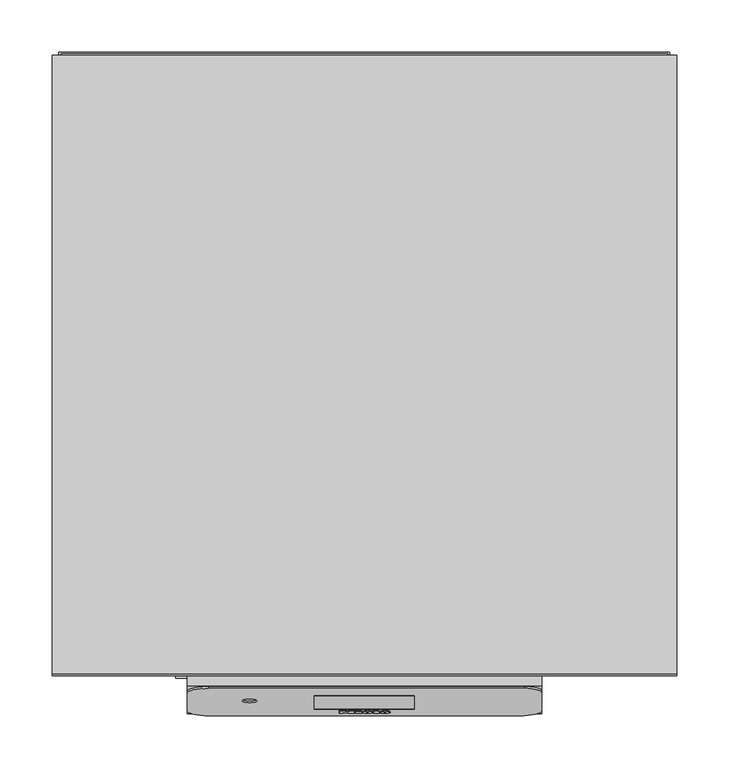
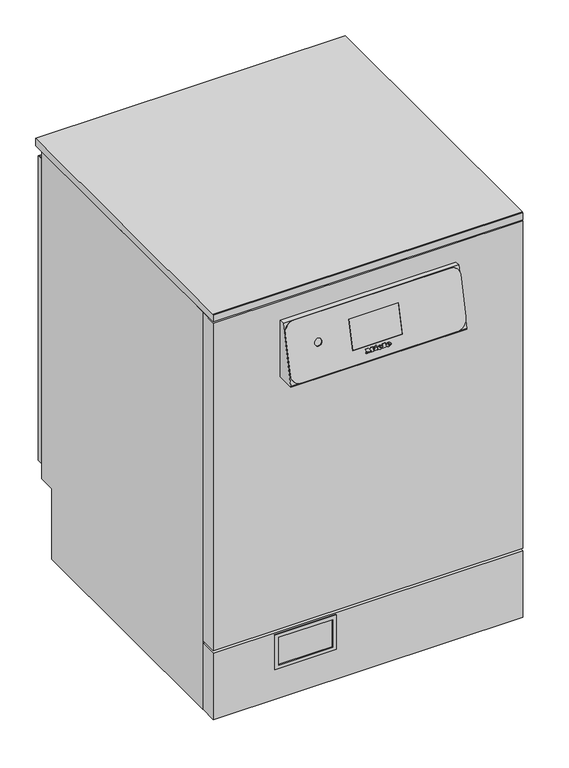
"""IFC4 building model written with IfcOpenShell, lengths in millimetres: proxy geometry, 12065160_DAC_PFD402_SST : 61040210_DAC_12065160_PFD402_SST."""

from ifc_helpers import new_model, si_unit, point, frame, frame_2d, origin, origin_with_axes, place, context, project, spatial, polyline, circle_curve, ellipse_curve, trimmed, segment, composite_curve, outline, extrude, faceted_brep, source, transform, mapped, element, save
from ifc_brep_helpers import plane_surface, cylinder_surface, revolved_surface, extruded_surface, advanced_brep


def specialty_equipment_52fd176c(model_context):
    return source(origin(), model_context, "Body", "SolidModel", [
        advanced_brep(
        [(19.2098411, -35.3170778, 679.7116041), (19.2098411, -35.1353173, 680.4988951), (24.5618411, -35.1353173, 680.4988951), (15.2498411, -35.1353173, 680.4988951), (17.4498411, -35.743585, 677.8641985), (24.4258411, -35.3170778, 679.7116041), (22.0098411, -35.3170778, 679.7116041), (20.1058411, -35.5186339, 678.8385685), (19.2098411, -34.9049675, 681.4966501), (19.2098411, -34.7088101, 682.3463008), (20.5778411, -34.7088101, 682.3463008), (20.5778411, -34.9049675, 681.4966501), (19.2098411, -34.3427077, 679.4866531), (20.1058411, -34.5442639, 678.6136175), (22.0098411, -34.3427077, 679.4866531), (24.4258411, -34.3427077, 679.4866531), (17.4498411, -34.7692149, 677.6392474), (15.2498411, -34.1609473, 680.2739441), (24.5618411, -34.1609473, 680.2739441), (19.2098411, -34.1609473, 680.2739441), (19.2098411, -33.9305974, 681.271699), (20.5778411, -33.9305974, 681.271699), (20.5778411, -33.7344401, 682.1213497), (19.2098411, -33.7344401, 682.1213497)],
        [
            (0, 1),
            (1, 2),
            (2, 3, ellipse_curve(frame((19.9058411, -35.1353173, 680.4988951), z_axis=(0.0, -0.9743700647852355, 0.22495105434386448), x_axis=(-1.0, 0.0, 0.0)), 4.656, 3.848)),
            (3, 4, circle_curve(frame((18.3458847, -35.0741307, 680.7639238), z_axis=(0.0, -0.9743700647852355, 0.22495105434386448), x_axis=(0.0, -0.22495105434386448, -0.9743700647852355)), 3.1079688)),
            (4, 5, circle_curve(frame((19.8126347, -34.599034, 682.8217934), z_axis=(0.0, -0.9743700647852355, 0.22495105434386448), x_axis=(0.0, -0.22495105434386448, -0.9743700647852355)), 5.6098607)),
            (5, 6),
            (6, 7, circle_curve(frame((20.4968999, -35.1497142, 680.4365354), z_axis=(0.0, 0.9743700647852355, -0.22495105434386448), x_axis=(0.0, -0.22495105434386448, -0.9743700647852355)), 1.6859795)),
            (7, 0, circle_curve(frame((20.1058411, -35.3170778, 679.7116041), z_axis=(0.0, 0.9743700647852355, -0.22495105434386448), x_axis=(0.0, -0.22495105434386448, -0.9743700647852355)), 0.896)),
            (8, 9),
            (9, 10, circle_curve(frame((19.8938411, -34.7088101, 682.3463008), z_axis=(0.0, 0.9743700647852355, -0.22495105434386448), x_axis=(0.0, -0.22495105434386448, -0.9743700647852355)), 0.684)),
            (10, 11),
            (11, 8),
            (12, 13, circle_curve(frame((20.1058411, -34.3427077, 679.4866531), z_axis=(0.0, -0.9743700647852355, 0.22495105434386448), x_axis=(0.0, -0.22495105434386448, -0.9743700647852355)), 0.896)),
            (13, 14, circle_curve(frame((20.4968999, -34.1753441, 680.2115844), z_axis=(0.0, -0.9743700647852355, 0.22495105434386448), x_axis=(0.0, -0.22495105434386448, -0.9743700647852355)), 1.6859795)),
            (14, 15),
            (15, 16, circle_curve(frame((19.8126347, -33.624664, 682.5968423), z_axis=(0.0, 0.9743700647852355, -0.22495105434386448), x_axis=(0.0, -0.22495105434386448, -0.9743700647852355)), 5.6098607)),
            (16, 17, circle_curve(frame((18.3458847, -34.0997606, 680.5389727), z_axis=(0.0, 0.9743700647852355, -0.22495105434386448), x_axis=(0.0, -0.22495105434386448, -0.9743700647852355)), 3.1079688)),
            (17, 18, ellipse_curve(frame((19.9058411, -34.1609473, 680.2739441), z_axis=(0.0, 0.9743700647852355, -0.22495105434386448), x_axis=(-1.0, 0.0, 0.0)), 4.656, 3.848)),
            (18, 19),
            (19, 12),
            (20, 21),
            (21, 22),
            (22, 23, circle_curve(frame((19.8938411, -33.7344401, 682.1213497), z_axis=(0.0, -0.9743700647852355, 0.22495105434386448), x_axis=(0.0, -0.22495105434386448, -0.9743700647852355)), 0.684)),
            (23, 20),
            (0, 12),
            (19, 1),
            (18, 2),
            (5, 15),
            (14, 6),
            (17, 3),
            (13, 7),
            (16, 4),
            (8, 20),
            (23, 9),
            (22, 10),
            (21, 11),
        ],
        [
            plane_surface(frame((19.2098411, -35.1353173, 680.4988951), z_axis=(0.0, -0.9743700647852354, 0.22495105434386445), x_axis=(0.0, 0.22495105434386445, 0.9743700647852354))),
            plane_surface(frame((19.2098411, -34.1609473, 680.2739441), z_axis=(0.0, 0.9743700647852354, -0.22495105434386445), x_axis=(0.0, -0.22495105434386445, -0.9743700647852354))),
            plane_surface(frame((19.2098411, -35.3170778, 679.7116041), z_axis=(1.0, 0.0, 0.0), x_axis=(0.0, 0.9743700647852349, -0.22495105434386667))),
            plane_surface(frame((19.2098411, -35.1353173, 680.4988951), z_axis=(0.0, -0.22495105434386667, -0.9743700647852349), x_axis=(0.0, 0.9743700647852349, -0.22495105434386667))),
            plane_surface(frame((24.4258411, -35.3170778, 679.7116041), z_axis=(0.0, 0.22495105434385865, 0.9743700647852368), x_axis=(0.0, 0.9743700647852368, -0.22495105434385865))),
            extruded_surface(trimmed(ellipse_curve(frame((19.9058411, -33.1865772, 680.048993), z_axis=(0.0, -0.9743700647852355, 0.22495105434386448), x_axis=(-1.0, 0.0, 0.0)), 4.656, 3.848), [point((24.5618411, -33.1865772, 680.048993))], [point((15.2498411, -33.1865772, 680.048993))], True, "CARTESIAN"), (0.0, -0.9743700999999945, 0.2249510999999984), 1.0000000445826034),
            revolved_surface(polyline([(20.4968999, -34.55460696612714, 678.5688164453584), (20.4968999, -35.52897707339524, 678.7937675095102)]), (20.4968999, -34.1753441, 680.2115844), (0.0, 0.9743700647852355, -0.22495105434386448)),
            revolved_surface(polyline([(20.1058411, -34.544263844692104, 678.6136175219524), (20.1058411, -35.51863393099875, 678.8385685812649)]), (20.1058411, -34.3427077, 679.4866531), (0.0, 0.9743700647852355, -0.22495105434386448)),
            cylinder_surface(frame((18.3458847, -34.0997606, 680.5389727), z_axis=(0.0, -0.9743700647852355, 0.22495105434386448), x_axis=(0.0, -0.22495105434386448, -0.9743700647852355)), 3.1079688),
            cylinder_surface(frame((19.8126347, -33.624664, 682.5968423), z_axis=(0.0, -0.9743700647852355, 0.22495105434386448), x_axis=(0.0, -0.22495105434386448, -0.9743700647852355)), 5.6098607),
            plane_surface(frame((19.2098411, -34.9049675, 681.4966501), z_axis=(1.0, 0.0, 0.0), x_axis=(0.0, 0.9743700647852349, -0.22495105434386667))),
            revolved_surface(polyline([(19.8938411, -33.8883066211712, 681.4548805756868), (19.8938411, -34.8626766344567, 681.6798316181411)]), (19.8938411, -33.7344401, 682.1213497), (0.0, 0.9743700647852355, -0.22495105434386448)),
            plane_surface(frame((20.5778411, -34.7088101, 682.3463008), z_axis=(-1.0, 0.0, 0.0), x_axis=(0.0, 0.9743700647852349, -0.22495105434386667))),
            plane_surface(frame((20.5778411, -34.9049675, 681.4966501), z_axis=(0.0, 0.22495105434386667, 0.9743700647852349), x_axis=(0.0, 0.9743700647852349, -0.22495105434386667))),
        ],
        [
            (0, [[1, 2, 3, 4, 5, 6, 7, 8], [9, 10, 11, 12]]),
            (1, [[13, 14, 15, 16, 17, 18, 19, 20], [21, 22, 23, 24]]),
            (2, [[-1, 25, -20, 26]]),
            (3, [[-2, -26, -19, 27]]),
            (4, [[-6, 28, -15, 29]]),
            (5, [[-3, -27, -18, 30]]),
            (6, [[-7, -29, -14, 31]]),
            (7, [[-8, -31, -13, -25]]),
            (8, [[-4, -30, -17, 32]]),
            (9, [[-5, -32, -16, -28]]),
            (10, [[-9, 33, -24, 34]]),
            (11, [[-10, -34, -23, 35]]),
            (12, [[-11, -35, -22, 36]]),
            (13, [[-12, -36, -21, -33]]),
        ],
    ),
        advanced_brep(
        [(2.5138411, -35.3170778, 679.7116041), (2.5138411, -35.1353173, 680.4988951), (7.8658411, -35.1353173, 680.4988951), (-1.4461589, -35.1353173, 680.4988951), (0.7538411, -35.743585, 677.8641985), (7.7298411, -35.3170778, 679.7116041), (5.3138411, -35.3170778, 679.7116041), (3.4098411, -35.5186339, 678.8385685), (2.5138411, -34.9049675, 681.4966501), (2.5138411, -34.7088101, 682.3463008), (3.8818411, -34.7088101, 682.3463008), (3.8818411, -34.9049675, 681.4966501), (2.5138411, -34.3427077, 679.4866531), (3.4098411, -34.5442639, 678.6136175), (5.3138411, -34.3427077, 679.4866531), (7.7298411, -34.3427077, 679.4866531), (0.7538411, -34.7692149, 677.6392474), (-1.4461589, -34.1609473, 680.2739441), (7.8658411, -34.1609473, 680.2739441), (2.5138411, -34.1609473, 680.2739441), (2.5138411, -33.9305974, 681.271699), (3.8818411, -33.9305974, 681.271699), (3.8818411, -33.7344401, 682.1213497), (2.5138411, -33.7344401, 682.1213497)],
        [
            (0, 1),
            (1, 2),
            (2, 3, ellipse_curve(frame((3.2098411, -35.1353173, 680.4988951), z_axis=(0.0, -0.9743700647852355, 0.22495105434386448), x_axis=(-1.0, 0.0, 0.0)), 4.656, 3.848)),
            (3, 4, circle_curve(frame((1.6498847, -35.0741307, 680.7639238), z_axis=(0.0, -0.9743700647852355, 0.22495105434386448), x_axis=(0.0, -0.22495105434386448, -0.9743700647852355)), 3.1079688)),
            (4, 5, circle_curve(frame((3.1166347, -34.599034, 682.8217934), z_axis=(0.0, -0.9743700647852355, 0.22495105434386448), x_axis=(0.0, -0.22495105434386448, -0.9743700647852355)), 5.6098607)),
            (5, 6),
            (6, 7, circle_curve(frame((3.8008999, -35.1497142, 680.4365354), z_axis=(0.0, 0.9743700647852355, -0.22495105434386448), x_axis=(0.0, -0.22495105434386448, -0.9743700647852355)), 1.6859795)),
            (7, 0, circle_curve(frame((3.4098411, -35.3170778, 679.7116041), z_axis=(0.0, 0.9743700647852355, -0.22495105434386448), x_axis=(0.0, -0.22495105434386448, -0.9743700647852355)), 0.896)),
            (8, 9),
            (9, 10, circle_curve(frame((3.1978411, -34.7088101, 682.3463008), z_axis=(0.0, 0.9743700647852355, -0.22495105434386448), x_axis=(0.0, -0.22495105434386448, -0.9743700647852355)), 0.684)),
            (10, 11),
            (11, 8),
            (12, 13, circle_curve(frame((3.4098411, -34.3427077, 679.4866531), z_axis=(0.0, -0.9743700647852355, 0.22495105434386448), x_axis=(0.0, -0.22495105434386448, -0.9743700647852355)), 0.896)),
            (13, 14, circle_curve(frame((3.8008999, -34.1753441, 680.2115844), z_axis=(0.0, -0.9743700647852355, 0.22495105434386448), x_axis=(0.0, -0.22495105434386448, -0.9743700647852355)), 1.6859795)),
            (14, 15),
            (15, 16, circle_curve(frame((3.1166347, -33.624664, 682.5968423), z_axis=(0.0, 0.9743700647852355, -0.22495105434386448), x_axis=(0.0, -0.22495105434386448, -0.9743700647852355)), 5.6098607)),
            (16, 17, circle_curve(frame((1.6498847, -34.0997606, 680.5389727), z_axis=(0.0, 0.9743700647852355, -0.22495105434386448), x_axis=(0.0, -0.22495105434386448, -0.9743700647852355)), 3.1079688)),
            (17, 18, ellipse_curve(frame((3.2098411, -34.1609473, 680.2739441), z_axis=(0.0, 0.9743700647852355, -0.22495105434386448), x_axis=(-1.0, 0.0, 0.0)), 4.656, 3.848)),
            (18, 19),
            (19, 12),
            (20, 21),
            (21, 22),
            (22, 23, circle_curve(frame((3.1978411, -33.7344401, 682.1213497), z_axis=(0.0, -0.9743700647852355, 0.22495105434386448), x_axis=(0.0, -0.22495105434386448, -0.9743700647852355)), 0.684)),
            (23, 20),
            (0, 12),
            (19, 1),
            (18, 2),
            (5, 15),
            (14, 6),
            (17, 3),
            (13, 7),
            (16, 4),
            (8, 20),
            (23, 9),
            (22, 10),
            (21, 11),
        ],
        [
            plane_surface(frame((2.5138411, -35.1353173, 680.4988951), z_axis=(0.0, -0.9743700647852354, 0.22495105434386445), x_axis=(0.0, 0.22495105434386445, 0.9743700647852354))),
            plane_surface(frame((2.5138411, -34.1609473, 680.2739441), z_axis=(0.0, 0.9743700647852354, -0.22495105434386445), x_axis=(0.0, -0.22495105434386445, -0.9743700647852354))),
            plane_surface(frame((2.5138411, -35.3170778, 679.7116041), z_axis=(1.0000000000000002, 0.0, 0.0), x_axis=(0.0, 0.9743700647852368, -0.22495105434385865))),
            plane_surface(frame((2.5138411, -35.1353173, 680.4988951), z_axis=(0.0, -0.22495105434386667, -0.9743700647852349), x_axis=(0.0, 0.9743700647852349, -0.22495105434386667))),
            plane_surface(frame((7.7298411, -35.3170778, 679.7116041), z_axis=(0.0, 0.22495105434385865, 0.9743700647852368), x_axis=(0.0, 0.9743700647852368, -0.22495105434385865))),
            extruded_surface(trimmed(ellipse_curve(frame((3.2098411, -33.1865772, 680.048993), z_axis=(0.0, -0.9743700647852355, 0.22495105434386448), x_axis=(-1.0, 0.0, 0.0)), 4.656, 3.848), [point((7.8658411, -33.1865772, 680.048993))], [point((-1.4461589, -33.1865772, 680.048993))], True, "CARTESIAN"), (0.0, -0.9743700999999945, 0.2249510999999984), 1.0000000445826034),
            revolved_surface(polyline([(3.8008999, -34.55460696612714, 678.5688164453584), (3.8008999, -35.52897707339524, 678.7937675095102)]), (3.8008999, -34.1753441, 680.2115844), (0.0, 0.9743700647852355, -0.22495105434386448)),
            revolved_surface(polyline([(3.4098411, -34.544263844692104, 678.6136175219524), (3.4098411, -35.51863393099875, 678.8385685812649)]), (3.4098411, -34.3427077, 679.4866531), (0.0, 0.9743700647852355, -0.22495105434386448)),
            cylinder_surface(frame((1.6498847, -34.0997606, 680.5389727), z_axis=(0.0, -0.9743700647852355, 0.22495105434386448), x_axis=(0.0, -0.22495105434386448, -0.9743700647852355)), 3.1079688),
            cylinder_surface(frame((3.1166347, -33.624664, 682.5968423), z_axis=(0.0, -0.9743700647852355, 0.22495105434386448), x_axis=(0.0, -0.22495105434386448, -0.9743700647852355)), 5.6098607),
            plane_surface(frame((2.5138411, -34.9049675, 681.4966501), z_axis=(1.0, 0.0, 0.0), x_axis=(0.0, 0.9743700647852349, -0.22495105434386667))),
            revolved_surface(polyline([(3.1978411, -33.8883066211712, 681.4548805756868), (3.1978411, -34.8626766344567, 681.6798316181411)]), (3.1978411, -33.7344401, 682.1213497), (0.0, 0.9743700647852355, -0.22495105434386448)),
            plane_surface(frame((3.8818411, -34.7088101, 682.3463008), z_axis=(-1.0, 0.0, 0.0), x_axis=(0.0, 0.9743700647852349, -0.22495105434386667))),
            plane_surface(frame((3.8818411, -34.9049675, 681.4966501), z_axis=(0.0, 0.22495105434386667, 0.9743700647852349), x_axis=(0.0, 0.9743700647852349, -0.22495105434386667))),
        ],
        [
            (0, [[1, 2, 3, 4, 5, 6, 7, 8], [9, 10, 11, 12]]),
            (1, [[13, 14, 15, 16, 17, 18, 19, 20], [21, 22, 23, 24]]),
            (2, [[-1, 25, -20, 26]]),
            (3, [[-2, -26, -19, 27]]),
            (4, [[-6, 28, -15, 29]]),
            (5, [[-3, -27, -18, 30]]),
            (6, [[-7, -29, -14, 31]]),
            (7, [[-8, -31, -13, -25]]),
            (8, [[-4, -30, -17, 32]]),
            (9, [[-5, -32, -16, -28]]),
            (10, [[-9, 33, -24, 34]]),
            (11, [[-10, -34, -23, 35]]),
            (12, [[-11, -35, -22, 36]]),
            (13, [[-12, -36, -21, -33]]),
        ],
    ),
        extrude(outline(polyline([(0.0, 0.0), (-0.0109087, -2.9993294), (-1.4390415, -2.9920868), (-1.4315307, 0.0), (0.0, 0.0)])), frame((-6.2301589, -33.0757834, 684.9743053), z_axis=(0.0, -0.9743700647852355, 0.2249510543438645), x_axis=(-0.42472021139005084, 0.20365373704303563, 0.8821212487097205)), (0.0, 0.0, 1.0), 1.0),
        extrude(outline(polyline([(-0.4933908, 2.4141097), (-2.7800844, -2.4601583), (-7.0459742, -0.4588767), (-7.4401146, -1.2990179), (-8.6568709, -0.728194), (-5.9760369, 4.9862153), (-4.7592806, 4.4153913), (-5.1636142, 3.5535222), (-2.1941493, 2.16044), (-1.7898157, 3.022309), (-0.4933908, 2.4141097)])), frame((-6.2301589, -33.0757834, 684.9743053), z_axis=(0.0, -0.9743700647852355, 0.2249510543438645), x_axis=(-0.42472021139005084, 0.20365373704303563, 0.8821212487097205)), (0.0, 0.0, 1.0), 1.0),
        extrude(outline(polyline([(0.0, 0.0), (0.0, -1.3039999), (-5.504, -1.3039999), (-5.504, 5.352), (-6.488, 5.352), (-6.488, 6.696), (0.0, 6.696), (0.0, 5.352), (-0.96, 5.352), (-0.96, 0.0), (0.0, 0.0)])), frame((8.3138411, -33.2629427, 684.1636294), z_axis=(0.0, -0.9743700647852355, 0.22495105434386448), x_axis=(-1.0, 0.0, 0.0)), (0.0, 0.0, 1.0), 1.0),
        extrude(outline(polyline([(0.0, 0.0), (0.0, -1.3039999), (-5.576, -1.3039999), (-7.92, 1.6960001), (-10.256, -1.3039999), (-15.128, -1.3039999), (-15.128, 0.0), (-14.112, 0.0), (-14.112, 5.352), (-15.128, 5.352), (-15.128, 6.696), (-8.744, 6.696), (-8.744, 5.352), (-9.728, 5.352), (-9.728, 1.8807777), (-6.136, 6.696), (-2.56, 1.9488752), (-2.56, 5.352), (-3.52, 5.352), (-3.52, 6.696), (0.0, 6.696), (0.0, 5.352), (-0.968, 5.352), (-0.968, 0.0), (0.0, 0.0)])), frame((-24.1501589, -33.2629427, 684.1636294), z_axis=(0.0, -0.9743700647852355, 0.22495105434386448), x_axis=(-1.0, 0.0, 0.0)), (0.0, 0.0, 1.0), 1.0),
        extrude(outline(polyline([(1.7745866, 832.3), (594.2, 832.3), (594.2, 817.0), (0.2, 817.0), (0.2, 830.7254134), (1.7745866, 832.3)])), frame((-299.0, 0.0, 0.0), z_axis=(1.0, 0.0, 0.0), x_axis=(0.0, 1.0, 0.0)), (0.0, 0.0, 1.0), 598.0),
        extrude(outline(polyline([(-0.1038681, 775.5857792), (-0.1038681, 660.0), (-36.1981904, 660.0), (-36.1981904, 662.5588517), (-10.1038681, 775.5857792), (-0.1038681, 775.5857792)])), frame((-169.8831565, 0.0, 0.0), z_axis=(1.0, 0.0, 0.0), x_axis=(0.0, 1.0, 0.0)), (0.0, 0.0, 1.0), 339.766313),
        extrude(outline(polyline([(137.0, -180.8556958), (66.1019991, -180.8556958), (66.1019991, -62.1493684), (137.0, -62.1493684), (137.0, -180.8556958)]), holes=[polyline([(129.5988213, -69.1491757), (73.0575068, -69.1491757), (73.0575068, -173.1990884), (129.5988213, -173.1990884), (129.5988213, -69.1491757)])]), frame((0.0, -2.0, 0.0), z_axis=(0.0, 1.0, 0.0), x_axis=(0.0, 0.0, 1.0)), (0.0, 0.0, 1.0), 2.0),
        extrude(outline(polyline([(299.0, 34.0), (299.0, 0.0), (-299.0, 0.0), (-299.0, 34.0), (299.0, 34.0)])), frame((0.0, 0.0, 4.5), z_axis=(0.0, 0.0, 1.0), x_axis=(1.0, 0.0, 0.0)), (0.0, 0.0, 1.0), 135.5),
        extrude(outline(polyline([(299.0, 34.0), (299.0, 0.0), (-299.0, 0.0), (-299.0, 34.0), (299.0, 34.0)])), frame((0.0, 0.0, 145.0), z_axis=(0.0, 0.0, 1.0), x_axis=(1.0, 0.0, 0.0)), (0.0, 0.0, 1.0), 670.0),
        advanced_brep(
        [(153.3281651, -12.0526082, 776.0356813), (-148.8831565, -12.0526082, 776.0356813), (-169.8831565, -16.7765804, 755.57391), (-169.8831565, -33.4229584, 683.4705252), (-148.8831565, -38.1469305, 663.0087538), (148.8831565, -38.1469305, 663.0087538), (169.8831565, -33.4229584, 683.4705252), (169.8831565, -15.776671, 759.9049933), (-102.8831565, -24.0088923, 724.2473253), (-116.8831565, -24.0088923, 724.2473253), (48.0, -18.9868916, 746.0), (48.0, -31.9155103, 690.0), (-48.0, -31.9155103, 690.0), (-48.0, -18.9868916, 746.0), (153.3281651, -10.1038681, 775.5857792), (169.8831565, -13.8279308, 759.4550912), (169.8831565, -31.4742182, 683.0206231), (148.8831565, -36.1981904, 662.5588517), (-148.8831565, -36.1981904, 662.5588517), (-169.8831565, -31.4742182, 683.0206231), (-169.8831565, -14.8278402, 755.1240079), (-148.8831565, -10.1038681, 775.5857792), (48.0, -29.8629021, 690.0), (48.0, -16.9342834, 746.0), (-48.0, -16.9342834, 746.0), (-48.0, -29.8629021, 690.0), (-116.8831565, -22.4281396, 723.8823798), (-102.8831565, -22.4281396, 723.8823798)],
        [
            (0, 1),
            (1, 2, circle_curve(frame((-148.8831565, -16.7765804, 755.57391), z_axis=(0.0, -0.9743700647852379, 0.22495105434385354), x_axis=(1.0, 0.0, 0.0)), 21.0)),
            (2, 3),
            (3, 4, circle_curve(frame((-148.8831565, -33.4229584, 683.4705252), z_axis=(0.0, -0.9743700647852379, 0.22495105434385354), x_axis=(1.0, 0.0, 0.0)), 21.0)),
            (4, 5),
            (5, 6, circle_curve(frame((148.8831565, -33.4229584, 683.4705252), z_axis=(0.0, -0.9743700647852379, 0.22495105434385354), x_axis=(1.0, 0.0, 0.0)), 21.0)),
            (6, 7),
            (7, 0, circle_curve(frame((153.3281651, -15.776671, 759.9049933), z_axis=(0.0, -0.9743700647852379, 0.22495105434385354), x_axis=(1.0, 0.0, 0.0)), 16.5549913)),
            (8, 9, circle_curve(frame((-109.8831565, -24.0088923, 724.2473253), z_axis=(0.0, 0.9743700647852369, -0.22495105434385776), x_axis=(1.0, 0.0, 0.0)), 7.0)),
            (9, 8, circle_curve(frame((-109.8831565, -24.0088923, 724.2473253), z_axis=(0.0, 0.9743700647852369, -0.22495105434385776), x_axis=(1.0, 0.0, 0.0)), 7.0)),
            (10, 11),
            (11, 12),
            (12, 13),
            (13, 10),
            (14, 15, circle_curve(frame((153.3281651, -13.8279308, 759.4550912), z_axis=(0.0, 0.9743700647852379, -0.22495105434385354), x_axis=(1.0, 0.0, 0.0)), 16.5549913)),
            (15, 16),
            (16, 17, circle_curve(frame((148.8831565, -31.4742182, 683.0206231), z_axis=(0.0, 0.9743700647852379, -0.22495105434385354), x_axis=(1.0, 0.0, 0.0)), 21.0)),
            (17, 18),
            (18, 19, circle_curve(frame((-148.8831565, -31.4742182, 683.0206231), z_axis=(0.0, 0.9743700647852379, -0.22495105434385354), x_axis=(1.0, 0.0, 0.0)), 21.0)),
            (19, 20),
            (20, 21, circle_curve(frame((-148.8831565, -14.8278402, 755.1240079), z_axis=(0.0, 0.9743700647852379, -0.22495105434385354), x_axis=(1.0, 0.0, 0.0)), 21.0)),
            (21, 14),
            (22, 23),
            (23, 24),
            (24, 25),
            (25, 22),
            (0, 14),
            (21, 1),
            (20, 2),
            (19, 3),
            (18, 4),
            (17, 5),
            (16, 6),
            (15, 7),
            (26, 27, circle_curve(frame((-109.8831565, -22.4281396, 723.8823798), z_axis=(0.0, -0.9743700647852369, 0.22495105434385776), x_axis=(1.0, 0.0, 0.0)), 7.0)),
            (27, 26, circle_curve(frame((-109.8831565, -22.4281396, 723.8823798), z_axis=(0.0, -0.9743700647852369, 0.22495105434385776), x_axis=(1.0, 0.0, 0.0)), 7.0)),
            (26, 9),
            (8, 27),
            (12, 25),
            (24, 13),
            (10, 23),
            (22, 11),
        ],
        [
            plane_surface(frame((-166.8819453, -12.0526082, 776.0356813), z_axis=(0.0, -0.9743700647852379, 0.22495105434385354), x_axis=(-1.0, 0.0, 0.0))),
            plane_surface(frame((-166.8819453, -10.1038681, 775.5857792), z_axis=(0.0, 0.9743700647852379, -0.22495105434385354), x_axis=(1.0, 0.0, 0.0))),
            plane_surface(frame((153.3281651, -12.0526082, 776.0356813), z_axis=(0.0, 0.22495105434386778, 0.9743700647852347), x_axis=(0.0, 0.9743700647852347, -0.22495105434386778))),
            cylinder_surface(frame((-148.8831565, -14.8278402, 755.1240079), z_axis=(0.0, -0.9743700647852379, 0.22495105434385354), x_axis=(1.0, 0.0, 0.0)), 21.0),
            plane_surface(frame((-169.8831565, -16.7765804, 755.57391), z_axis=(-1.0, 0.0, 0.0), x_axis=(0.0, 0.9743700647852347, -0.22495105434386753))),
            cylinder_surface(frame((-148.8831565, -31.4742182, 683.0206231), z_axis=(0.0, -0.9743700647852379, 0.22495105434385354), x_axis=(1.0, 0.0, 0.0)), 21.0),
            plane_surface(frame((-148.8831565, -38.1469305, 663.0087538), z_axis=(0.0, -0.22495105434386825, -0.9743700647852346), x_axis=(0.0, 0.9743700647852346, -0.22495105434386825))),
            cylinder_surface(frame((148.8831565, -31.4742182, 683.0206231), z_axis=(0.0, -0.9743700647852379, 0.22495105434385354), x_axis=(1.0, 0.0, 0.0)), 21.0),
            plane_surface(frame((169.8831565, -33.4229584, 683.4705252), z_axis=(1.0000000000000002, 0.0, 0.0), x_axis=(0.0, 0.9743700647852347, -0.22495105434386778))),
            cylinder_surface(frame((153.3281651, -13.8279308, 759.4550912), z_axis=(0.0, -0.9743700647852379, 0.22495105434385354), x_axis=(1.0, 0.0, 0.0)), 16.5549913),
            plane_surface(frame((-102.8831565, -22.4281396, 723.8823798), z_axis=(0.0, -0.9743700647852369, 0.2249510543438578), x_axis=(0.0, -0.2249510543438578, -0.9743700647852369))),
            revolved_surface(polyline([(-102.8831565, -24.008892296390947, 724.2473253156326), (-102.8831565, -22.4281396, 723.8823798)]), (-109.8831565, -22.4281396, 723.8823798), (0.0, -0.9743700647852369, 0.22495105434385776)),
            plane_surface(frame((-48.0, -31.9155103, 690.0), z_axis=(1.0, 0.0, 0.0), x_axis=(0.0, -1.0, 0.0))),
            plane_surface(frame((48.0, -31.9155103, 690.0), z_axis=(-1.0, 0.0, 0.0), x_axis=(0.0, 1.0, 0.0))),
            plane_surface(frame((48.0, -31.9155103, 690.0), z_axis=(0.0, 0.0, 1.0), x_axis=(-1.0, 0.0, 0.0))),
            plane_surface(frame((48.0, -16.9342834, 746.0), z_axis=(0.0, 0.0, -1.0), x_axis=(-1.0, 0.0, 0.0))),
        ],
        [
            (0, [[1, 2, 3, 4, 5, 6, 7, 8], [9, 10], [11, 12, 13, 14]]),
            (1, [[15, 16, 17, 18, 19, 20, 21, 22], [23, 24, 25, 26]]),
            (2, [[-1, 27, -22, 28]]),
            (3, [[-2, -28, -21, 29]]),
            (4, [[-3, -29, -20, 30]]),
            (5, [[-4, -30, -19, 31]]),
            (6, [[-5, -31, -18, 32]]),
            (7, [[-6, -32, -17, 33]]),
            (8, [[-7, -33, -16, 34]]),
            (9, [[-8, -34, -15, -27]]),
            (10, [[35, 36]]),
            (11, [[-35, 37, -9, 38]]),
            (11, [[-36, -38, -10, -37]]),
            (12, [[39, -25, 40, -13]]),
            (13, [[41, -23, 42, -11]]),
            (14, [[-42, -26, -39, -12]]),
            (15, [[-41, -14, -40, -24]]),
        ],
    ),
        extrude(outline(polyline([(-29.8629021, 690.0), (-31.9155103, 690.0), (-18.9868916, 746.0), (-16.9342834, 746.0), (-29.8629021, 690.0)])), frame((-48.0, 0.0, 0.0), z_axis=(1.0, 0.0, 0.0), x_axis=(0.0, 1.0, 0.0)), (0.0, 0.0, 1.0), 96.0),
        extrude(outline(polyline([(35.0, 817.0), (575.0, 817.0), (575.0, 148.0), (541.0, 148.0), (541.0, 4.2000122), (35.0, 4.2000122), (35.0, 817.0)])), frame((-299.0, 0.0, 0.0), z_axis=(1.0, 0.0, 0.0), x_axis=(0.0, 1.0, 0.0)), (0.0, 0.0, 1.0), 598.0),
        extrude(outline(polyline([(-172.0947306, 541.0), (-252.9150967, 541.0), (-252.9150967, 546.8796322), (-172.0947306, 546.8796322), (-172.0947306, 541.0)])), frame((0.0, 0.0, 83.2113443), z_axis=(0.0, 0.0, 1.0), x_axis=(1.0, 0.0, 0.0)), (0.0, 0.0, 1.0), 9.5402229),
        extrude(outline(polyline([(-172.0947306, 541.0), (-252.9150967, 541.0), (-252.9150967, 546.8796322), (-172.0947306, 546.8796322), (-172.0947306, 541.0)])), frame((0.0, 0.0, 49.1113767), z_axis=(0.0, 0.0, 1.0), x_axis=(1.0, 0.0, 0.0)), (0.0, 0.0, 1.0), 11.5700235),
        extrude(outline(polyline([(-172.0947306, 541.0), (-252.9150967, 541.0), (-252.9150967, 546.8796322), (-172.0947306, 546.8796322), (-172.0947306, 541.0)])), frame((0.0, 0.0, 67.2113431), z_axis=(0.0, 0.0, 1.0), x_axis=(1.0, 0.0, 0.0)), (0.0, 0.0, 1.0), 9.5826234),
        faceted_brep([(292.4999939, 597.3069992, 792.0057337), (292.4999939, 575.0, 792.0057337), (292.4999939, 575.0, 170.291519), (292.4999939, 597.3069992, 170.291519), (-292.5000061, 597.3069992, 792.0057337), (-292.5000061, 597.3069992, 170.291519), (-200.000102, 597.3069992, 319.6113699), (-200.000102, 597.3069992, 244.365213), (-125.000102, 597.3069992, 244.365213), (-125.000102, 597.3069992, 319.6113699), (-200.000102, 596.3069992, 244.365213), (-200.000102, 596.3069992, 319.6113699), (-125.000102, 596.3069992, 244.365213), (-125.000102, 596.3069992, 319.6113699), (-292.5000061, 575.0, 792.0057337), (-291.0000061, 575.0, 792.0057337), (-291.0000061, 596.3069992, 792.0057337), (290.9999949, 596.3069992, 792.0057337), (290.9999949, 575.0, 792.0057337), (290.9999949, 575.0, 170.291519), (290.9999949, 596.3069992, 170.291519), (-291.0000061, 596.3069992, 170.291519), (-291.0000061, 575.0, 170.291519), (-292.5000061, 575.0, 170.291519)], [[[0, 1, 2, 3]], [[4, 0, 3, 5], [6, 7, 8, 9]], [[10, 7, 6, 11]], [[7, 10, 12, 8]], [[8, 12, 13, 9]], [[11, 6, 9, 13]], [[0, 4, 14, 15, 16, 17, 18, 1]], [[3, 2, 19, 20, 21, 22, 23, 5]], [[14, 4, 5, 23]], [[15, 14, 23, 22]], [[16, 15, 22, 21]], [[17, 16, 21, 20], [10, 11, 13, 12]], [[18, 17, 20, 19]], [[1, 18, 19, 2]]]),
        extrude(outline(polyline([(70.6242327, 186.565003), (80.6698637, 186.565003), (80.6698637, 179.3447057), (79.4141598, 179.3447057), (79.4141598, 185.3092991), (76.4318631, 185.3092991), (76.4318631, 179.6586317), (75.1761592, 179.6586317), (75.1761592, 185.3092991), (71.8799366, 185.3092991), (71.8799366, 179.1877427), (70.6242327, 179.1877427), (70.6242327, 186.565003)])), frame((0.0, 571.0, 0.0), z_axis=(0.0, 1.0, 0.0), x_axis=(0.0, 0.0, 1.0)), (0.0, 0.0, 1.0), 1.0),
        extrude(outline(polyline([(70.6242327, 177.3041869), (80.6698637, 177.3041869), (80.6698637, 176.048483), (71.8799366, 176.048483), (71.8799366, 171.0256675), (70.6242327, 171.0256675), (70.6242327, 177.3041869)])), frame((0.0, 571.0, 0.0), z_axis=(0.0, 1.0, 0.0), x_axis=(0.0, 0.0, 1.0)), (0.0, 0.0, 1.0), 1.0),
        extrude(outline(polyline([(46.0, 96.7862239), (56.045631, 92.7763102), (56.045631, 91.7069998), (46.0, 87.6970861), (46.0, 89.0239138), (49.1392597, 90.1741582), (49.1392597, 94.3116044), (46.0, 95.4593962), (46.0, 96.7862239)]), holes=[polyline([(50.3949636, 93.8505256), (50.3949636, 90.6327844), (52.864678, 91.5377741), (54.7899271, 92.241655), (53.0805021, 92.8670544), (50.3949636, 93.8505256)])]), frame((0.0, 571.0, 0.0), z_axis=(0.0, 1.0, 0.0), x_axis=(0.0, 0.0, 1.0)), (0.0, 0.0, 1.0), 1.0),
        extrude(outline(polyline([(46.0, 84.5578264), (56.045631, 87.297321), (56.045631, 86.0023764), (49.4433755, 84.4131261), (47.4053092, 83.9226168), (49.207931, 83.3977718), (56.045631, 81.406304), (56.045631, 79.539916), (51.0890343, 78.0929135), (47.4053092, 77.0162455), (49.3845144, 76.5404514), (56.045631, 74.936486), (56.045631, 73.6415413), (46.0, 76.3834885), (46.0, 77.7250315), (53.7500474, 80.1334323), (54.8316204, 80.4694312), (53.5293182, 80.8471233), (46.0, 83.0421526), (46.0, 84.5578264)])), frame((0.0, 571.0, 0.0), z_axis=(0.0, 1.0, 0.0), x_axis=(0.0, 0.0, 1.0)), (0.0, 0.0, 1.0), 1.0),
        extrude(outline(composite_curve([segment(trimmed(circle_curve(frame_2d((51.0, 85.0998392)), 8.0), [point((51.0, 77.0998392))], [point((51.0, 93.0998392))], False, "CARTESIAN"), True, "CONTINUOUS"), segment(trimmed(circle_curve(frame_2d((51.0, 85.0998392)), 8.0), [point((51.0, 93.0998392))], [point((51.0, 77.0998392))], False, "CARTESIAN"), True, "CONTINUOUS")], self_intersect=False)), frame((0.0, 541.0, 0.0), z_axis=(0.0, 1.0, 0.0), x_axis=(0.0, 0.0, 1.0)), (0.0, 0.0, 1.0), 30.0),
        extrude(outline(polyline([(94.6239875, 133.557834), (104.6696185, 136.2973286), (104.6696185, 135.002384), (98.067363, 133.4131338), (96.0292967, 132.9226244), (97.8319185, 132.3977795), (104.6696185, 130.4063116), (104.6696185, 128.5399236), (99.7130218, 127.0929211), (96.0292967, 126.0162531), (98.0085019, 125.5404591), (104.6696185, 123.9364936), (104.6696185, 122.641549), (94.6239875, 125.3834961), (94.6239875, 126.7250391), (102.3740349, 129.1334399), (103.4556079, 129.4694388), (102.1533057, 129.847131), (94.6239875, 132.0421602), (94.6239875, 133.557834)])), frame((0.0, 571.0, 0.0), z_axis=(0.0, 1.0, 0.0), x_axis=(0.0, 0.0, 1.0)), (0.0, 0.0, 1.0), 1.0),
        extrude(outline(polyline([(94.6239875, 144.6163668), (104.6696185, 144.6163668), (104.6696185, 143.3606629), (99.7522625, 143.3606629), (104.6696185, 138.210315), (104.6696185, 136.4542916), (100.53953, 140.7781313), (94.6239875, 136.2973286), (94.6239875, 137.8326228), (99.6909489, 141.6684057), (98.0771732, 143.3606629), (94.6239875, 143.3606629), (94.6239875, 144.6163668)])), frame((0.0, 571.0, 0.0), z_axis=(0.0, 1.0, 0.0), x_axis=(0.0, 0.0, 1.0)), (0.0, 0.0, 1.0), 1.0),
        extrude(outline(polyline([(118.1398187, 18.2077062), (128.1854497, 18.2077062), (128.1854497, 14.7422578), (128.0407495, 12.9494462), (127.3221533, 11.4730132), (125.6053707, 10.283528), (123.2165903, 9.888668), (121.1895605, 10.1559956), (119.7266164, 10.8427087), (118.8154953, 11.7599611), (118.311497, 12.9604827), (118.1398187, 14.5754846), (118.1398187, 18.2077062)]), holes=[polyline([(119.3955226, 16.9520023), (119.3955226, 14.7299951), (119.5770111, 13.1137669), (120.0895933, 12.1817991), (121.3367133, 11.4178309), (123.2362106, 11.1443719), (125.6151809, 11.6802533), (126.728637, 12.9837819), (126.9297459, 14.7643307), (126.9297459, 16.9520023), (119.3955226, 16.9520023)])]), frame((0.0, 571.0, 0.0), z_axis=(0.0, 1.0, 0.0), x_axis=(0.0, 0.0, 1.0)), (0.0, 0.0, 1.0), 1.0),
        extrude(outline(polyline([(121.5930044, 8.6329642), (121.5930044, 7.3772603), (120.3360742, 6.9725901), (119.5414491, 5.9842138), (119.2385596, 4.4783502), (119.4678727, 3.1662377), (120.0981772, 2.3188828), (120.940627, 2.0405188), (121.7242156, 2.2489853), (122.2944327, 3.1024715), (122.7739056, 4.930845), (123.3931736, 6.8990137), (124.3275939, 7.9670977), (125.5759401, 8.3190382), (126.9971909, 7.8837112), (128.0002825, 6.6120657), (128.3424127, 4.7505828), (127.9843409, 2.7640201), (126.9321984, 1.4396449), (125.360116, 0.9417779), (125.360116, 2.1974818), (126.6501555, 2.9087203), (127.0867088, 4.7015319), (126.6550606, 6.4992486), (125.6127283, 7.0633343), (124.7420743, 6.6635692), (124.0406459, 4.6132402), (123.4103414, 2.391233), (122.3925346, 1.1759961), (120.9725101, 0.7848149), (119.4703253, 1.2348572), (118.3740369, 2.5298019), (117.9828557, 4.4292992), (118.4046938, 6.6721531), (119.6751129, 8.0909513), (121.5930044, 8.6329642)])), frame((0.0, 571.0, 0.0), z_axis=(0.0, 1.0, 0.0), x_axis=(0.0, 0.0, 1.0)), (0.0, 0.0, 1.0), 1.0),
        extrude(outline(composite_curve([segment(trimmed(circle_curve(frame_2d((126.8499756, 10.1811127)), 2.9851521), [point((126.8499756, 7.1959606))], [point((126.8499756, 13.1662647))], False, "CARTESIAN"), True, "CONTINUOUS"), segment(trimmed(circle_curve(frame_2d((126.8499756, 10.1811127)), 2.9851521), [point((126.8499756, 13.1662647))], [point((126.8499756, 7.1959606))], False, "CARTESIAN"), True, "CONTINUOUS")], self_intersect=False)), frame((0.0, 541.0, 0.0), z_axis=(0.0, 1.0, 0.0), x_axis=(0.0, 0.0, 1.0)), (0.0, 0.0, 1.0), 30.0),
        extrude(outline(composite_curve([segment(trimmed(circle_curve(frame_2d((117.0999756, 10.1811127)), 3.0), [point((117.0999756, 7.1811127))], [point((117.0999756, 13.1811127))], False, "CARTESIAN"), True, "CONTINUOUS"), segment(trimmed(circle_curve(frame_2d((117.0999756, 10.1811127)), 3.0), [point((117.0999756, 13.1811127))], [point((117.0999756, 7.1811127))], False, "CARTESIAN"), True, "CONTINUOUS")], self_intersect=False)), frame((0.0, 541.0, 0.0), z_axis=(0.0, 1.0, 0.0), x_axis=(0.0, 0.0, 1.0)), (0.0, 0.0, 1.0), 30.0),
        extrude(outline(composite_curve([segment(trimmed(circle_curve(frame_2d((107.3499443, 10.1811127)), 3.0), [point((107.3499443, 7.1811127))], [point((107.3499443, 13.1811127))], False, "CARTESIAN"), True, "CONTINUOUS"), segment(trimmed(circle_curve(frame_2d((107.3499443, 10.1811127)), 3.0), [point((107.3499443, 13.1811127))], [point((107.3499443, 7.1811127))], False, "CARTESIAN"), True, "CONTINUOUS")], self_intersect=False)), frame((0.0, 541.0, 0.0), z_axis=(0.0, 1.0, 0.0), x_axis=(0.0, 0.0, 1.0)), (0.0, 0.0, 1.0), 30.0),
        extrude(outline(composite_curve([segment(trimmed(circle_curve(frame_2d((136.5999756, 10.1811127)), 3.0), [point((136.5999756, 7.1811127))], [point((136.5999756, 13.1811127))], False, "CARTESIAN"), True, "CONTINUOUS"), segment(trimmed(circle_curve(frame_2d((136.5999756, 10.1811127)), 3.0), [point((136.5999756, 13.1811127))], [point((136.5999756, 7.1811127))], False, "CARTESIAN"), True, "CONTINUOUS")], self_intersect=False)), frame((0.0, 541.0, 0.0), z_axis=(0.0, 1.0, 0.0), x_axis=(0.0, 0.0, 1.0)), (0.0, 0.0, 1.0), 30.0),
        extrude(outline(polyline([(99.6239875, 19.6811122), (148.0, 19.6811122), (148.0, 1.1811127), (99.6239875, 1.1811127), (99.6239875, 19.6811122)]), holes=[polyline([(100.6239875, 18.6811122), (100.6239875, 2.1811127), (147.0, 2.1811127), (147.0, 18.6811122), (100.6239875, 18.6811122)])]), frame((0.0, 541.0, 0.0), z_axis=(0.0, 1.0, 0.0), x_axis=(0.0, 0.0, 1.0)), (0.0, 0.0, 1.0), 1.0),
        extrude(outline(polyline([(41.5900269, 145.1730949), (51.6356579, 147.9125895), (51.6356579, 146.6176449), (45.0334023, 145.0283946), (42.9953361, 144.5378853), (44.7979579, 144.0130403), (51.6356579, 142.0215725), (51.6356579, 140.1551845), (46.6790611, 138.708182), (42.9953361, 137.631514), (44.9745412, 137.1557199), (51.6356579, 135.5517544), (51.6356579, 134.2568098), (41.5900269, 136.998757), (41.5900269, 138.3403), (49.3400742, 140.7487008), (50.4216473, 141.0846996), (49.119345, 141.4623918), (41.5900269, 143.6574211), (41.5900269, 145.1730949)])), frame((0.0, 571.0, 0.0), z_axis=(0.0, 1.0, 0.0), x_axis=(0.0, 0.0, 1.0)), (0.0, 0.0, 1.0), 1.0),
        extrude(outline(polyline([(41.5900269, 131.2033893), (51.6356579, 133.9428838), (51.6356579, 132.6479392), (45.0334023, 131.058689), (42.9953361, 130.5681797), (44.7979579, 130.0433347), (51.6356579, 128.0518668), (51.6356579, 126.1854788), (46.6790611, 124.7384763), (42.9953361, 123.6618084), (44.9745412, 123.1860143), (51.6356579, 121.5820488), (51.6356579, 120.2871042), (41.5900269, 123.0290513), (41.5900269, 124.3705943), (49.3400742, 126.7789951), (50.4216473, 127.114994), (49.119345, 127.4926862), (41.5900269, 129.6877154), (41.5900269, 131.2033893)])), frame((0.0, 571.0, 0.0), z_axis=(0.0, 1.0, 0.0), x_axis=(0.0, 0.0, 1.0)), (0.0, 0.0, 1.0), 1.0),
        extrude(outline(composite_curve([segment(trimmed(circle_curve(frame_2d((46.5900269, 134.0998468)), 8.0), [point((46.5900269, 126.0998468))], [point((46.5900269, 142.0998468))], False, "CARTESIAN"), True, "CONTINUOUS"), segment(trimmed(circle_curve(frame_2d((46.5900269, 134.0998468)), 8.0), [point((46.5900269, 142.0998468))], [point((46.5900269, 126.0998468))], False, "CARTESIAN"), True, "CONTINUOUS")], self_intersect=False)), frame((0.0, 541.0, 0.0), z_axis=(0.0, 1.0, 0.0), x_axis=(0.0, 0.0, 1.0)), (0.0, 0.0, 1.0), 30.0),
        extrude(outline(polyline([(118.1398187, -7.1235653), (128.1854497, -7.1235653), (128.1854497, -10.5890137), (128.0407495, -12.3818253), (127.3221533, -13.8582584), (125.6053707, -15.0477435), (123.2165903, -15.4426035), (121.1895605, -15.1752759), (119.7266164, -14.4885629), (118.8154953, -13.5713104), (118.311497, -12.3707889), (118.1398187, -10.7557869), (118.1398187, -7.1235653)]), holes=[polyline([(119.3955226, -8.3792692), (119.3955226, -10.6012765), (119.5770111, -12.2175047), (120.0895933, -13.1494724), (121.3367133, -13.9134407), (123.2362106, -14.1868996), (125.6151809, -13.6510182), (126.728637, -12.3474897), (126.9297459, -10.5669408), (126.9297459, -8.3792692), (119.3955226, -8.3792692)])]), frame((0.0, 571.0, 0.0), z_axis=(0.0, 1.0, 0.0), x_axis=(0.0, 0.0, 1.0)), (0.0, 0.0, 1.0), 1.0),
        extrude(outline(polyline([(121.5930044, -16.6983074), (121.5930044, -17.9540113), (120.3360742, -18.3586815), (119.5414491, -19.3470578), (119.2385596, -20.8529214), (119.4678727, -22.1650338), (120.0981772, -23.0123887), (120.940627, -23.2907528), (121.7242156, -23.0822863), (122.2944327, -22.2288001), (122.7739056, -20.4004265), (123.3931736, -18.4322579), (124.3275939, -17.3641738), (125.5759401, -17.0122334), (126.9971909, -17.4475604), (128.0002825, -18.7192058), (128.3424127, -20.5806887), (127.9843409, -22.5672515), (126.9321984, -23.8916267), (125.360116, -24.3894936), (125.360116, -23.1337898), (126.6501555, -22.4225512), (127.0867088, -20.6297397), (126.6550606, -18.832023), (125.6127283, -18.2679372), (124.7420743, -18.6677023), (124.0406459, -20.7180313), (123.4103414, -22.9400386), (122.3925346, -24.1552754), (120.9725101, -24.5464566), (119.4703253, -24.0964143), (118.3740369, -22.8014697), (117.9828557, -20.9019723), (118.4046938, -18.6591184), (119.6751129, -17.2403202), (121.5930044, -16.6983074)])), frame((0.0, 571.0, 0.0), z_axis=(0.0, 1.0, 0.0), x_axis=(0.0, 0.0, 1.0)), (0.0, 0.0, 1.0), 1.0),
        extrude(outline(composite_curve([segment(trimmed(circle_curve(frame_2d((126.8499756, -15.1501589)), 2.9851521), [point((126.8499756, -18.135311))], [point((126.8499756, -12.1650068))], False, "CARTESIAN"), True, "CONTINUOUS"), segment(trimmed(circle_curve(frame_2d((126.8499756, -15.1501589)), 2.9851521), [point((126.8499756, -12.1650068))], [point((126.8499756, -18.135311))], False, "CARTESIAN"), True, "CONTINUOUS")], self_intersect=False)), frame((0.0, 541.0, 0.0), z_axis=(0.0, 1.0, 0.0), x_axis=(0.0, 0.0, 1.0)), (0.0, 0.0, 1.0), 30.0),
        extrude(outline(composite_curve([segment(trimmed(circle_curve(frame_2d((117.0999756, -15.1501589)), 3.0), [point((117.0999756, -18.1501589))], [point((117.0999756, -12.1501589))], False, "CARTESIAN"), True, "CONTINUOUS"), segment(trimmed(circle_curve(frame_2d((117.0999756, -15.1501589)), 3.0), [point((117.0999756, -12.1501589))], [point((117.0999756, -18.1501589))], False, "CARTESIAN"), True, "CONTINUOUS")], self_intersect=False)), frame((0.0, 541.0, 0.0), z_axis=(0.0, 1.0, 0.0), x_axis=(0.0, 0.0, 1.0)), (0.0, 0.0, 1.0), 30.0),
        extrude(outline(composite_curve([segment(trimmed(circle_curve(frame_2d((107.3499443, -15.1501589)), 3.0), [point((107.3499443, -18.1501589))], [point((107.3499443, -12.1501589))], False, "CARTESIAN"), True, "CONTINUOUS"), segment(trimmed(circle_curve(frame_2d((107.3499443, -15.1501589)), 3.0), [point((107.3499443, -12.1501589))], [point((107.3499443, -18.1501589))], False, "CARTESIAN"), True, "CONTINUOUS")], self_intersect=False)), frame((0.0, 541.0, 0.0), z_axis=(0.0, 1.0, 0.0), x_axis=(0.0, 0.0, 1.0)), (0.0, 0.0, 1.0), 30.0),
        extrude(outline(composite_curve([segment(trimmed(circle_curve(frame_2d((136.5999756, -15.1501589)), 3.0), [point((136.5999756, -18.1501589))], [point((136.5999756, -12.1501589))], False, "CARTESIAN"), True, "CONTINUOUS"), segment(trimmed(circle_curve(frame_2d((136.5999756, -15.1501589)), 3.0), [point((136.5999756, -12.1501589))], [point((136.5999756, -18.1501589))], False, "CARTESIAN"), True, "CONTINUOUS")], self_intersect=False)), frame((0.0, 541.0, 0.0), z_axis=(0.0, 1.0, 0.0), x_axis=(0.0, 0.0, 1.0)), (0.0, 0.0, 1.0), 30.0),
        extrude(outline(polyline([(99.6239875, -5.6501594), (148.0, -5.6501594), (148.0, -24.1501589), (99.6239875, -24.1501589), (99.6239875, -5.6501594)]), holes=[polyline([(100.6239875, -6.6501594), (100.6239875, -23.1501589), (147.0, -23.1501589), (147.0, -6.6501594), (100.6239875, -6.6501594)])]), frame((0.0, 541.0, 0.0), z_axis=(0.0, 1.0, 0.0), x_axis=(0.0, 0.0, 1.0)), (0.0, 0.0, 1.0), 1.0),
        extrude(outline(polyline([(294.0108337, -153.1353281), (304.0564648, -153.1353281), (304.0564648, -156.6007765), (303.9117645, -158.3935881), (303.1931683, -159.8700212), (301.4763857, -161.0595063), (299.0876053, -161.4543663), (297.0605755, -161.1870387), (295.5976314, -160.5003256), (294.6865103, -159.5830732), (294.182512, -158.3825516), (294.0108337, -156.7675497), (294.0108337, -153.1353281)]), holes=[polyline([(295.2665376, -154.391032), (295.2665376, -156.6130392), (295.4480261, -158.2292675), (295.9606083, -159.1612352), (297.2077283, -159.9252035), (299.1072256, -160.1986624), (301.4861959, -159.662781), (302.5996521, -158.3592524), (302.8007609, -156.5787036), (302.8007609, -154.391032), (295.2665376, -154.391032)])]), frame((0.0, 585.0, 0.0), z_axis=(0.0, 1.0, 0.0), x_axis=(0.0, 0.0, 1.0)), (0.0, 0.0, 1.0), 1.0),
        extrude(outline(polyline([(297.4640194, -162.7100702), (297.4640194, -163.965774), (296.2070893, -164.3704442), (295.4124641, -165.3588205), (295.1095746, -166.8646842), (295.3388877, -168.1767966), (295.9691922, -169.0241515), (296.811642, -169.3025155), (297.5952306, -169.094049), (298.1654477, -168.2405628), (298.6449206, -166.4121893), (299.2641886, -164.4440206), (300.1986089, -163.3759366), (301.4469551, -163.0239961), (302.8682059, -163.4593232), (303.8712975, -164.7309686), (304.2134277, -166.5924515), (303.8553559, -168.5790143), (302.8032134, -169.9033894), (301.231131, -170.4012564), (301.231131, -169.1455525), (302.5211706, -168.434314), (302.9577239, -166.6415024), (302.5260757, -164.8437857), (301.4837433, -164.2797), (300.6130893, -164.6794651), (299.9116609, -166.7297941), (299.2813565, -168.9518013), (298.2635496, -170.1670382), (296.8435251, -170.5582194), (295.3413403, -170.1081771), (294.2450519, -168.8132325), (293.8538708, -166.9137351), (294.2757088, -164.6708812), (295.5461279, -163.252083), (297.4640194, -162.7100702)])), frame((0.0, 585.0, 0.0), z_axis=(0.0, 1.0, 0.0), x_axis=(0.0, 0.0, 1.0)), (0.0, 0.0, 1.0), 1.0),
        extrude(outline(composite_curve([segment(trimmed(circle_curve(frame_2d((299.0108337, -161.6898108)), 35.0), [point((299.0108337, -196.6898108))], [point((299.0108337, -126.6898108))], False, "CARTESIAN"), True, "CONTINUOUS"), segment(trimmed(circle_curve(frame_2d((299.0108337, -161.6898108)), 35.0), [point((299.0108337, -126.6898108))], [point((299.0108337, -196.6898108))], False, "CARTESIAN"), True, "CONTINUOUS")], self_intersect=False)), frame((0.0, 575.0, 0.0), z_axis=(0.0, 1.0, 0.0), x_axis=(0.0, 0.0, 1.0)), (0.0, 0.0, 1.0), 10.0),
        extrude(outline(polyline([(134.5999756, -252.738078), (144.6456066, -252.738078), (144.6456066, -256.4610438), (144.5499573, -257.9620023), (144.0802946, -259.1821442), (143.1090861, -259.9730905), (141.7393388, -260.2723012), (139.5688351, -259.4641871), (138.6810132, -256.5468829), (138.6810132, -253.9937818), (134.5999756, -253.9937818), (134.5999756, -252.738078)]), holes=[polyline([(139.9367171, -253.9937818), (139.9367171, -256.6204593), (140.3977958, -258.4696795), (141.695193, -259.0165974), (142.7350728, -258.6940875), (143.3040636, -257.8467326), (143.3899027, -256.5910287), (143.3899027, -253.9937818), (139.9367171, -253.9937818)])]), frame((0.0, 571.0, 0.0), z_axis=(0.0, 1.0, 0.0), x_axis=(0.0, 0.0, 1.0)), (0.0, 0.0, 1.0), 1.0),
        extrude(outline(polyline([(134.5999756, -260.8290293), (144.6456066, -264.8389431), (144.6456066, -265.9082534), (134.5999756, -269.9181671), (134.5999756, -268.5913394), (137.7392353, -267.441095), (137.7392353, -263.3036489), (134.5999756, -262.155857), (134.5999756, -260.8290293)]), holes=[polyline([(138.9949392, -263.7647276), (138.9949392, -266.9824688), (141.4646536, -266.0774791), (143.3899027, -265.3735982), (141.6804777, -264.7481988), (138.9949392, -263.7647276)])]), frame((0.0, 571.0, 0.0), z_axis=(0.0, 1.0, 0.0), x_axis=(0.0, 0.0, 1.0)), (0.0, 0.0, 1.0), 1.0),
        extrude(outline(composite_curve([segment(trimmed(circle_curve(frame_2d((139.5999756, -260.9001532)), 8.0), [point((139.5999756, -268.9001532))], [point((139.5999756, -252.9001532))], False, "CARTESIAN"), True, "CONTINUOUS"), segment(trimmed(circle_curve(frame_2d((139.5999756, -260.9001532)), 8.0), [point((139.5999756, -252.9001532))], [point((139.5999756, -268.9001532))], False, "CARTESIAN"), True, "CONTINUOUS")], self_intersect=False)), frame((0.0, 541.0, 0.0), z_axis=(0.0, 1.0, 0.0), x_axis=(0.0, 0.0, 1.0)), (0.0, 0.0, 1.0), 30.0),
        extrude(outline(composite_curve([segment(trimmed(circle_curve(frame_2d((99.6239875, 134.0998468)), 8.0), [point((99.6239875, 126.0998468))], [point((99.6239875, 142.0998468))], False, "CARTESIAN"), True, "CONTINUOUS"), segment(trimmed(circle_curve(frame_2d((99.6239875, 134.0998468)), 8.0), [point((99.6239875, 142.0998468))], [point((99.6239875, 126.0998468))], False, "CARTESIAN"), True, "CONTINUOUS")], self_intersect=False)), frame((0.0, 541.0, 0.0), z_axis=(0.0, 1.0, 0.0), x_axis=(0.0, 0.0, 1.0)), (0.0, 0.0, 1.0), 30.0),
        extrude(outline(composite_curve([segment(trimmed(circle_curve(frame_2d((76.0, 179.0)), 8.0), [point((76.0, 171.0))], [point((76.0, 187.0))], False, "CARTESIAN"), True, "CONTINUOUS"), segment(trimmed(circle_curve(frame_2d((76.0, 179.0)), 8.0), [point((76.0, 187.0))], [point((76.0, 171.0))], False, "CARTESIAN"), True, "CONTINUOUS")], self_intersect=False)), frame((0.0, 541.0, 0.0), z_axis=(0.0, 1.0, 0.0), x_axis=(0.0, 0.0, 1.0)), (0.0, 0.0, 1.0), 30.0),
        extrude(outline(polyline([(-246.8707486, 541.0), (-246.8707486, 505.0), (-294.0966381, 505.0), (-294.0966381, 541.0), (-246.8707486, 541.0)])), origin_with_axes(), (0.0, 0.0, 1.0), 4.2000122),
        extrude(outline(polyline([(246.8707486, 541.0), (294.0966381, 541.0), (294.0966381, 505.0), (246.8707486, 505.0), (246.8707486, 541.0)])), origin_with_axes(), (0.0, 0.0, 1.0), 4.2000122),
        extrude(outline(composite_curve([segment(trimmed(circle_curve(frame_2d((-269.0, 35.0)), 16.477447), [point((-285.477447, 35.0))], [point((-252.522553, 35.0))], False, "CARTESIAN"), True, "CONTINUOUS"), segment(trimmed(circle_curve(frame_2d((-269.0, 35.0)), 16.477447), [point((-252.522553, 35.0))], [point((-285.477447, 35.0))], False, "CARTESIAN"), True, "CONTINUOUS")], self_intersect=False)), origin_with_axes(), (0.0, 0.0, 1.0), 4.2000122),
        extrude(outline(composite_curve([segment(trimmed(circle_curve(frame_2d((269.0, 35.0)), 16.477447), [point((252.522553, 35.0))], [point((285.477447, 35.0))], False, "CARTESIAN"), True, "CONTINUOUS"), segment(trimmed(circle_curve(frame_2d((269.0, 35.0)), 16.477447), [point((285.477447, 35.0))], [point((252.522553, 35.0))], False, "CARTESIAN"), True, "CONTINUOUS")], self_intersect=False)), origin_with_axes(), (0.0, 0.0, 1.0), 4.2000122),
    ])


if __name__ == "__main__":
    model = new_model("IFC4")
    model_context = context("Model", 3, world=origin())
    ifc_project = project(units=[si_unit("LENGTHUNIT", "METRE", prefix="MILLI")], contexts=[model_context])
    site = spatial("IfcSite", under=ifc_project)
    building = spatial("IfcBuilding", under=site)
    placement = place(None, origin())
    specialty_equipment_shape = specialty_equipment_52fd176c(model_context)
    element("IfcBuildingElementProxy", 1, Name="12065160_DAC_PFD402_SST : 61040210_DAC_12065160_PFD402_SST", ObjectType="12065160_DAC_PFD402_SST : 61040210_DAC_12065160_PFD402_SST", at=placement, inside=building, context=model_context, shape_type="MappedRepresentation", body=[
        mapped(specialty_equipment_shape, transform((0.0, 0.0, 0.0), x_axis=(1.0, 0.0, 0.0), y_axis=(0.0, 1.0, 0.0), z_axis=(0.0, 0.0, 1.0))),
    ])
    save(model, "model.ifc")
